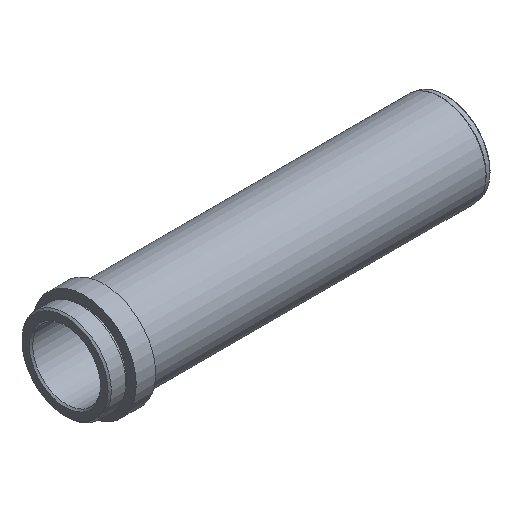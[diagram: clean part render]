
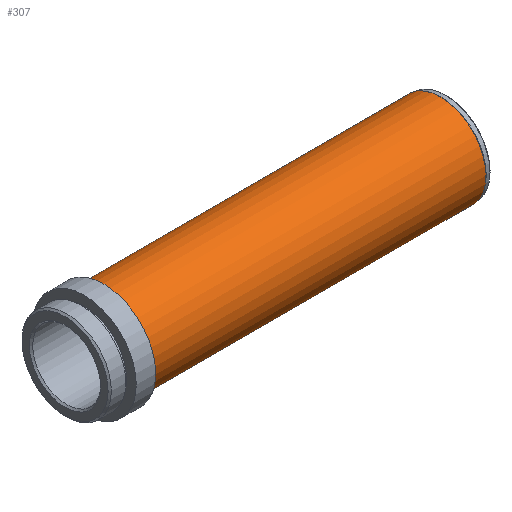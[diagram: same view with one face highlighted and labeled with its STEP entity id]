
A CAD part, isometric view. The second image highlights one B-rep face of the part: STEP entity #307.
In plain terms, the highlighted cylindrical face has radius 7 mm (diameter 14 mm), a full revolution.
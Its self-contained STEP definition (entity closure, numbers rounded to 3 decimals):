
#21=CYLINDRICAL_SURFACE('',#370,7.);
#54=FACE_OUTER_BOUND('',#79,.T.);
#79=EDGE_LOOP('',(#256,#257,#258,#259));
#97=LINE('',#554,#109);
#109=VECTOR('',#470,7.);
#132=CIRCLE('',#369,7.);
#133=CIRCLE('',#371,7.);
#156=VERTEX_POINT('',#549);
#157=VERTEX_POINT('',#552);
#191=EDGE_CURVE('',#156,#156,#132,.T.);
#192=EDGE_CURVE('',#157,#157,#133,.T.);
#193=EDGE_CURVE('',#157,#156,#97,.T.);
#256=ORIENTED_EDGE('',*,*,#192,.F.);
#257=ORIENTED_EDGE('',*,*,#193,.T.);
#258=ORIENTED_EDGE('',*,*,#191,.T.);
#259=ORIENTED_EDGE('',*,*,#193,.F.);
#307=ADVANCED_FACE('',(#54),#21,.T.);
#369=AXIS2_PLACEMENT_3D('',#550,#464,#465);
#370=AXIS2_PLACEMENT_3D('',#551,#466,#467);
#371=AXIS2_PLACEMENT_3D('',#553,#468,#469);
#464=DIRECTION('center_axis',(1.,0.,0.));
#465=DIRECTION('ref_axis',(0.,0.,-1.));
#466=DIRECTION('center_axis',(1.,0.,0.));
#467=DIRECTION('ref_axis',(0.,1.,0.));
#468=DIRECTION('center_axis',(1.,0.,0.));
#469=DIRECTION('ref_axis',(0.,0.,-1.));
#470=DIRECTION('',(-1.,0.,0.));
#549=CARTESIAN_POINT('',(6.5,-7.,0.));
#550=CARTESIAN_POINT('Origin',(6.5,0.,0.));
#551=CARTESIAN_POINT('Origin',(32.285,0.,0.));
#552=CARTESIAN_POINT('',(58.07,-7.,0.));
#553=CARTESIAN_POINT('Origin',(58.07,0.,0.));
#554=CARTESIAN_POINT('',(32.285,-7.,0.));
